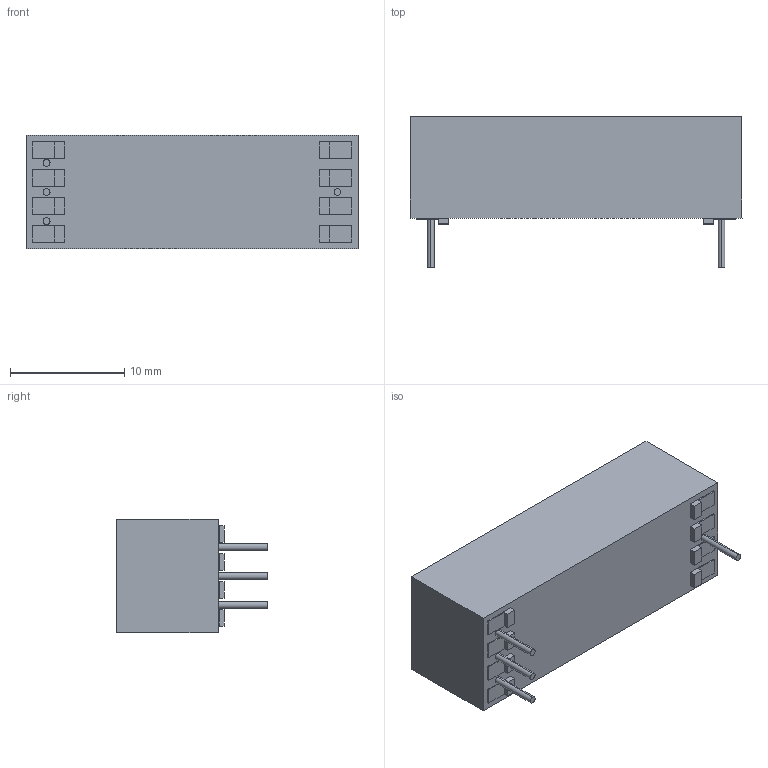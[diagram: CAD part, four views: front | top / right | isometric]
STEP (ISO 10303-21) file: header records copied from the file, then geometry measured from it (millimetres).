
FILE_DESCRIPTION (( 'STEP AP203' ), '1' );
FILE_NAME ('85-1-A.STEP', '2010-06-29T15:24:29', ( ' ' ), ( '' ), 'SwSTEP 2.0', 'SolidWorks 2009', '' );
FILE_SCHEMA (( 'CONFIG_CONTROL_DESIGN' ));
Length unit declared in the file: millimetre
Products named in the file (1): 85-1-A
Bounding box: 29 x 13.2 x 9.9 mm (x, y, z)
Volume: 2563.5 mm3; surface area: 1320 mm2
Topology: 1 solids, 1 shells, 702 faces, 1860 edges, 1238 vertices
Faces by surface type: plane 462, bspline 232, cylinder 8
Entity records: 33865 total; most frequent: CARTESIAN_POINT 17921, ORIENTED_EDGE 3720, DIRECTION 2354, EDGE_CURVE 1860, LINE 1380, VECTOR 1380, VERTEX_POINT 1238, EDGE_LOOP 780
